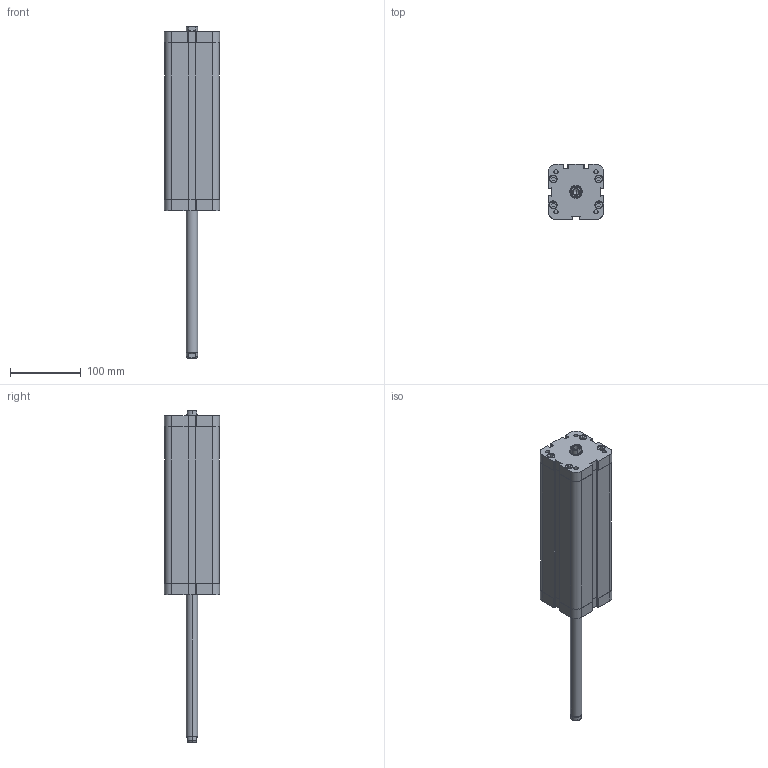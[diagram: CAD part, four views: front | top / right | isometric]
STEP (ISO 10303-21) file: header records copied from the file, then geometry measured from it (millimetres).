
FILE_DESCRIPTION((''),'2;1');
FILE_NAME('P11M40630200.stp','2010-02-26T20:05:43',('B. Petkovic 2010'),('AZ PNEUMATICA S.r.l.'),'Mechanical Desktop 2006','Mechanical Desktop 2006','Via Marco Biagi 6, I-20020 Misinto(MI) Italy, azpneu@tin.it');
FILE_SCHEMA(('CONFIG_CONTROL_DESIGN'));
Length unit declared in the file: millimetre
Products named in the file (2): P11M40630200; COMPACT CILINDRI
Assembly tree (1 placements, depth 2):
  P11M40630200
    COMPACT CILINDRI
Bounding box: 78 x 78 x 469 mm (x, y, z)
Volume: 1459753 mm3; surface area: 117857.3 mm2
Topology: 1 solids, 1 shells, 430 faces, 1102 edges, 714 vertices
Faces by surface type: plane 250, cylinder 162, cone 12, torus 6
Entity records: 13292 total; most frequent: CARTESIAN_POINT 2412, DIRECTION 2333, ORIENTED_EDGE 2196, EDGE_CURVE 1098, AXIS2_PLACEMENT_3D 809, VECTOR 715, LINE 715, VERTEX_POINT 714
